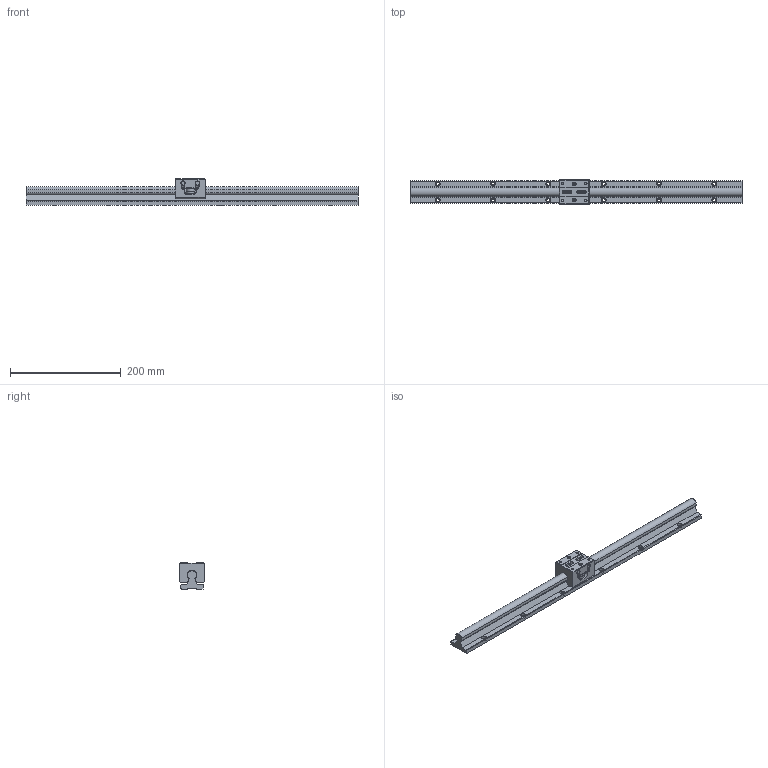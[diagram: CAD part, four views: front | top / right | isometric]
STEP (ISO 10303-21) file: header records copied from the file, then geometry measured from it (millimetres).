
FILE_DESCRIPTION((''),'2;1');
FILE_NAME('D:\製品 (図面)\カタログ用3D\リニアガイド関連\STEP形式\LTG\LTG16.stp','2010-06-02T16:05:47',('Tsuchiya'),(''),'Autodesk Inventor 10','Autodesk Inventor 10','');
FILE_SCHEMA(('AUTOMOTIVE_DESIGN { 1 0 10303 214 1 1 1 1 }'));
Length unit declared in the file: millimetre
Products named in the file (3): LTG16; LTG161; LTG162
Assembly tree (2 placements, depth 2):
  LTG16
    LTG161
    LTG162
Bounding box: 600 x 45 x 47 mm (x, y, z)
Volume: 440207.3 mm3; surface area: 107645.2 mm2
Topology: 2 solids, 2 shells, 313 faces, 795 edges, 512 vertices
Faces by surface type: bspline 145, plane 95, cylinder 49, cone 20, torus 4
Full cylindrical faces by diameter (mm): 4 x1, 4.134 x2, 5 x3, 5.5 x4, 6.5 x4, 8 x5, 13 x3, 14 x2
Entity records: 10750 total; most frequent: CARTESIAN_POINT 4377, ORIENTED_EDGE 1250, DIRECTION 1137, EDGE_CURVE 625, EDGE_LOOP 507, VERTEX_POINT 462, AXIS2_PLACEMENT_3D 441, FACE_OUTER_BOUND 313
